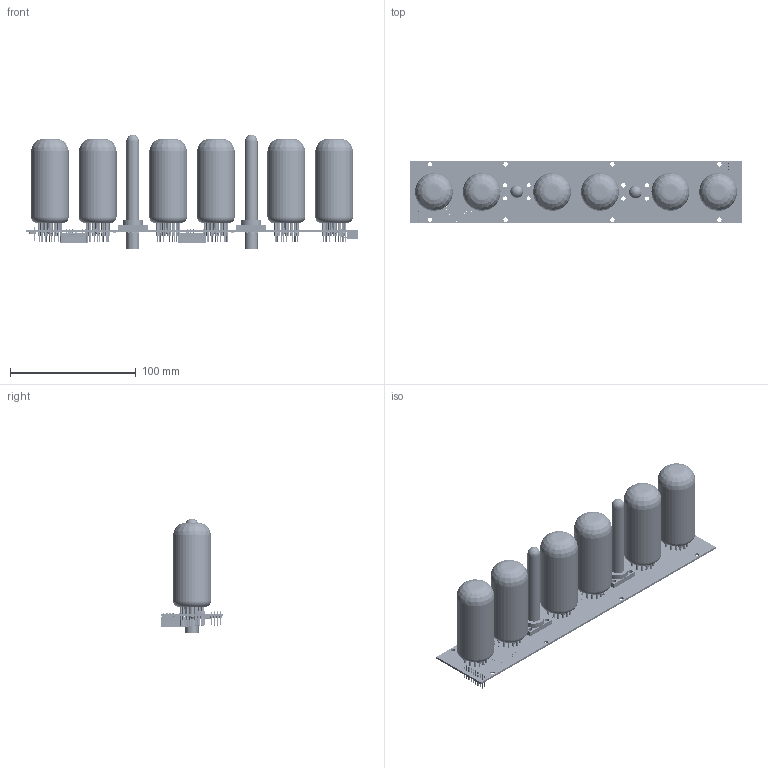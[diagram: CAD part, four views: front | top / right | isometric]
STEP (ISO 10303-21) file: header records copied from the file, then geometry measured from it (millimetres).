
FILE_DESCRIPTION(('Open CASCADE Model'),'2;1');
FILE_NAME('Open CASCADE Shape Model','2018-01-29T17:30:29',('Author'),( 'Open CASCADE'),'Open CASCADE STEP processor 6.8','Open CASCADE 6.8' ,'Unknown');
FILE_SCHEMA(('AUTOMOTIVE_DESIGN { 1 0 10303 214 1 1 1 1 }'));
Length unit declared in the file: millimetre
Products named in the file (1): PCB
Bounding box: 264 x 50 x 91 mm (x, y, z)
Volume: 34575.3 mm3; surface area: 101620.1 mm2
Topology: 85 solids, 2302 shells, 6962 faces, 22303 edges, 17830 vertices
Faces by surface type: plane 3667, cylinder 2873, sphere 228, bspline 158, cone 12, torus 12, revolution 12
Full cylindrical faces by diameter (mm): 0.9 x137, 1.6 x84, 3.5 x16, 5.1 x6
Entity records: 274555 total; most frequent: CARTESIAN_POINT 59130, DIRECTION 41763, ORIENTED_EDGE 32990, EDGE_CURVE 22043, VERTEX_POINT 17830, LINE 14905, VECTOR 14905, AXIS2_PLACEMENT_3D 13423
